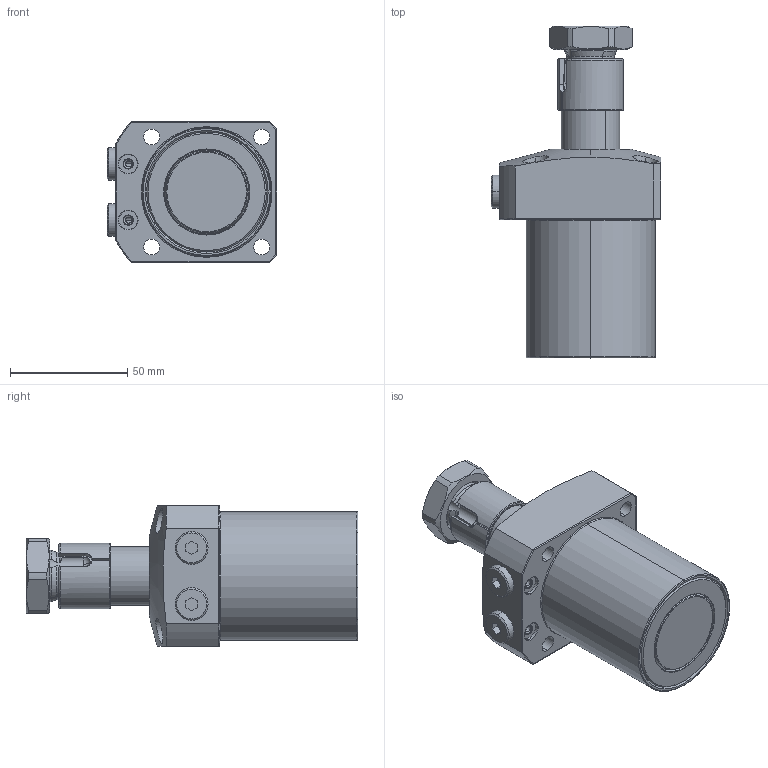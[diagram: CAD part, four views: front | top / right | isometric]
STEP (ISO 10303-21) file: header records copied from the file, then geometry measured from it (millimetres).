
FILE_DESCRIPTION(/* description */ (''),/* implementation_level */ '2;1');
FILE_NAME(/* name */ 'KTRC55-RN30.stp',/* time_stamp */ '2022-11-18T09:15:23+08:00',/* author */ (''),/* organization */ (''),/* preprocessor_version */ 'ST-DEVELOPER v16.7',/* originating_system */ 'SIEMENS PLM Software NX 12.0',/* authorisation */ '');
FILE_SCHEMA (('AP203_CONFIGURATION_CONTROLLED_3D_DESIGN_OF_MECHANICAL_PARTS_AND_ASSEMBLIES_MIM_LF { 1 0 10303 403 2 1 2}'));
Length unit declared in the file: millimetre
Products named in the file (7): KTRC55-RN30-06; KTRC55-RN30-05; KTRC55-RN30-04; KTRC55-RN30-03; KTRC55-RN30-02; KTRC55-RN30-01; LHA0550-CL-Y30_R01_step
Assembly tree (7 placements, depth 2):
  LHA0550-CL-Y30_R01_step
    KTRC55-RN30-01
    KTRC55-RN30-02
    KTRC55-RN30-03
    KTRC55-RN30-04
    KTRC55-RN30-05
    KTRC55-RN30-06  x2
Bounding box: 72.5 x 141.7 x 60 mm (x, y, z)
Volume: 278504.3 mm3; surface area: 44027.2 mm2
Topology: 7 solids, 7 shells, 240 faces, 573 edges, 359 vertices
Faces by surface type: cylinder 81, plane 78, cone 55, torus 24, sphere 2
Entity records: 8108 total; most frequent: CARTESIAN_POINT 1971, DIRECTION 1159, ORIENTED_EDGE 1086, EDGE_CURVE 543, AXIS2_PLACEMENT_3D 477, VERTEX_POINT 341, EDGE_LOOP 254, CIRCLE 242
